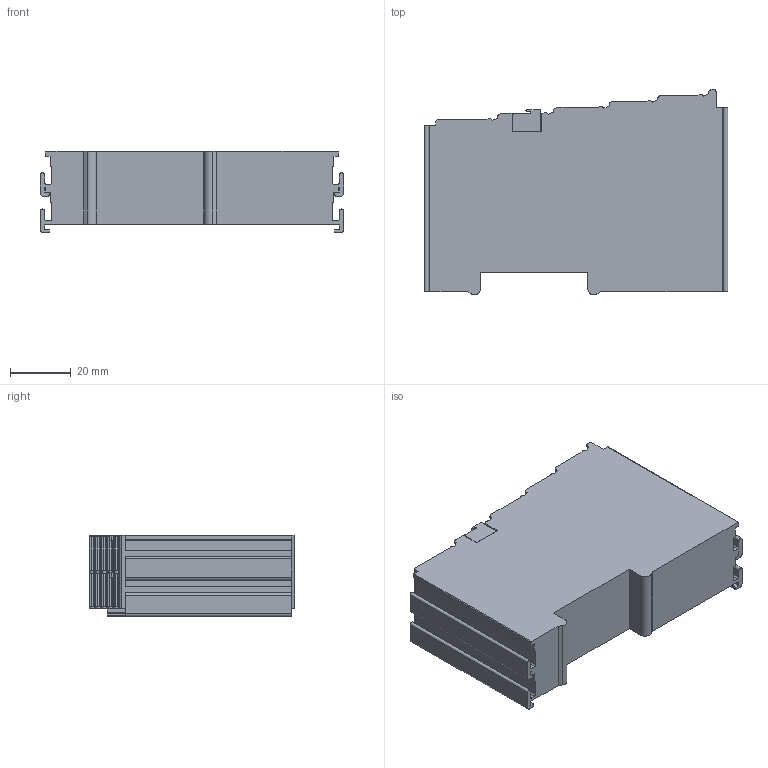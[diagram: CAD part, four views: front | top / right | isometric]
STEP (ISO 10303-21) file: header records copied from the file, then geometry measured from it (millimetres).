
FILE_DESCRIPTION(/* description */ ('ELXxxxx24mm'),/* implementation_level */ '2;1');
FILE_NAME(/* name */ 'Z:\Entwicklung\IO-Projekte\ELX\ELXxxxx\ELXxxxx24mm.stp',/* time_stamp */ '2019-04-25T11:04:46+02:00',/* author */ ('LarsSo'),/* organization */ (''),/* preprocessor_version */ 'ST-DEVELOPER v17.2',/* originating_system */ 'Autodesk Inventor 2019',/* authorisation */ ' ');
FILE_SCHEMA (('AUTOMOTIVE_DESIGN { 1 0 10303 214 3 1 1 }'));
Length unit declared in the file: millimetre
Products named in the file (1): ELXxxxx24mm
Bounding box: 100 x 67.8 x 26.8 mm (x, y, z)
Volume: 132515.4 mm3; surface area: 26209.9 mm2
Topology: 1 solids, 1 shells, 491 faces, 1366 edges, 900 vertices
Faces by surface type: plane 300, cylinder 158, cone 33
Entity records: 15898 total; most frequent: CARTESIAN_POINT 2990, ORIENTED_EDGE 2732, DIRECTION 2678, EDGE_CURVE 1366, LINE 942, VECTOR 942, VERTEX_POINT 900, AXIS2_PLACEMENT_3D 868
